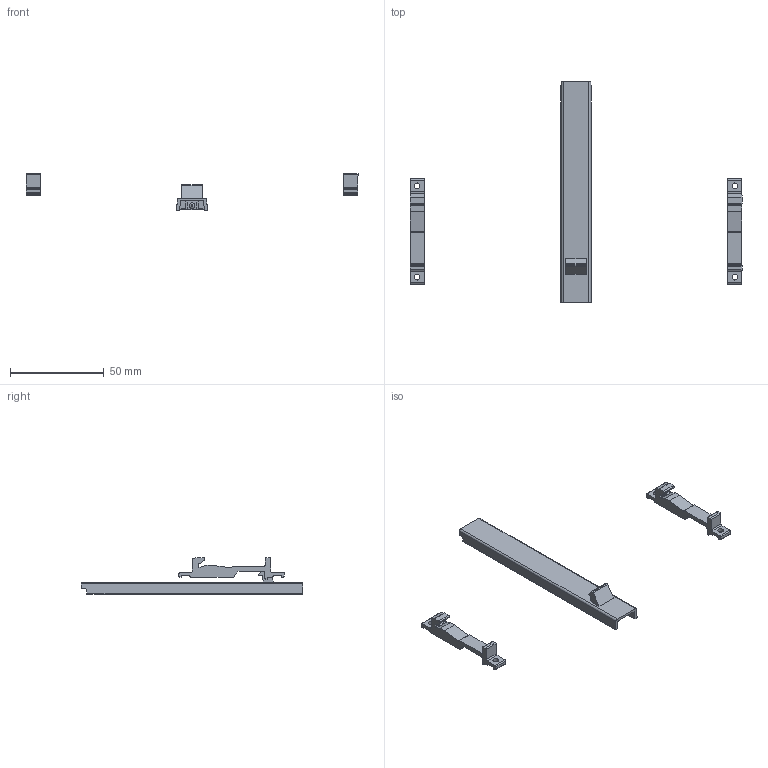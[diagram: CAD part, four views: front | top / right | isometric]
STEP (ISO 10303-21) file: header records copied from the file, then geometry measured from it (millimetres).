
FILE_DESCRIPTION (( 'STEP AP214' ), '1' );
FILE_NAME ('DIN_RAIL_MOUNT.STEP', '2024-07-22T07:51:44', ( '' ), ( '' ), 'SwSTEP 2.0', 'SolidWorks 2024', '' );
FILE_SCHEMA (( 'AUTOMOTIVE_DESIGN' ));
Length unit declared in the file: millimetre
Products named in the file (3): MKT_Slider_after_DFM_BRep_Config; MKT_T HOLDER; DIN_RAIL_MOUNT
Assembly tree (3 placements, depth 2):
  DIN_RAIL_MOUNT
    MKT_Slider_after_DFM_BRep_Config
    MKT_T HOLDER  x2
Bounding box: 176.9 x 117.87 x 19.65 mm (x, y, z)
Volume: 9340 mm3; surface area: 10592.5 mm2
Topology: 3 solids, 3 shells, 230 faces, 668 edges, 445 vertices
Faces by surface type: plane 135, cylinder 91, bspline 3, torus 1
Full cylindrical faces by diameter (mm): 3.1 x4
Entity records: 5369 total; most frequent: CARTESIAN_POINT 1101, ORIENTED_EDGE 896, DIRECTION 829, EDGE_CURVE 448, VECTOR 325, LINE 325, VERTEX_POINT 299, AXIS2_PLACEMENT_3D 252
